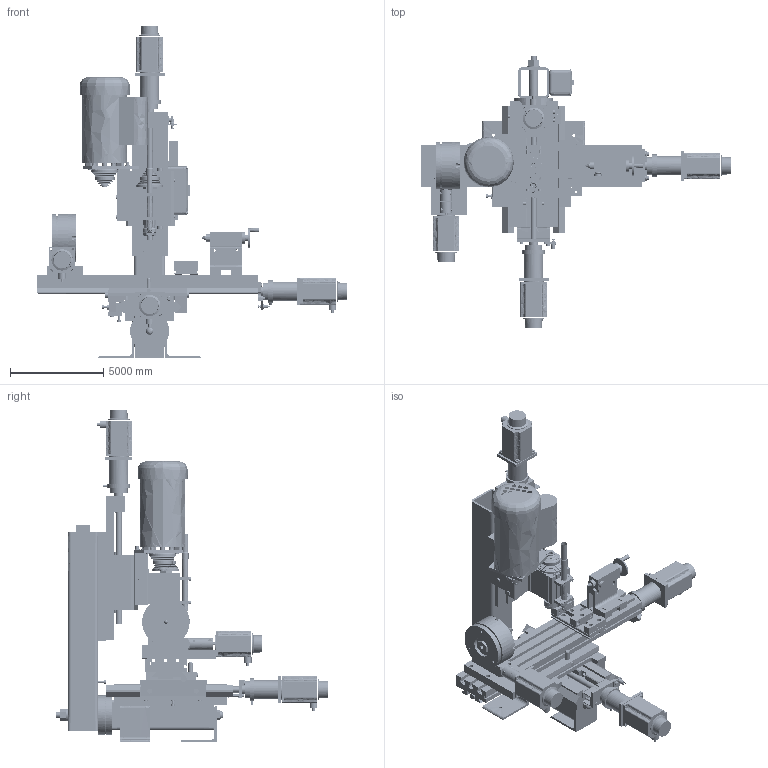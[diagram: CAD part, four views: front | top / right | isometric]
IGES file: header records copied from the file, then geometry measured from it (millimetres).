
Start section: IMSI TurboCAD v14.0
Global section: author: NULL; organization: NULL; date: 20110217.141322; units: inch
Bounding box: 16599.97 x 14587.07 x 17816.09 mm (x, y, z)
Surface area: 1177557028.4 mm2 (no closed solid volume)
Topology: 0 solids, 0 shells, 2514 faces, 16427 edges, 16589 vertices
Faces by surface type: bspline 1478, extrusion 1036
